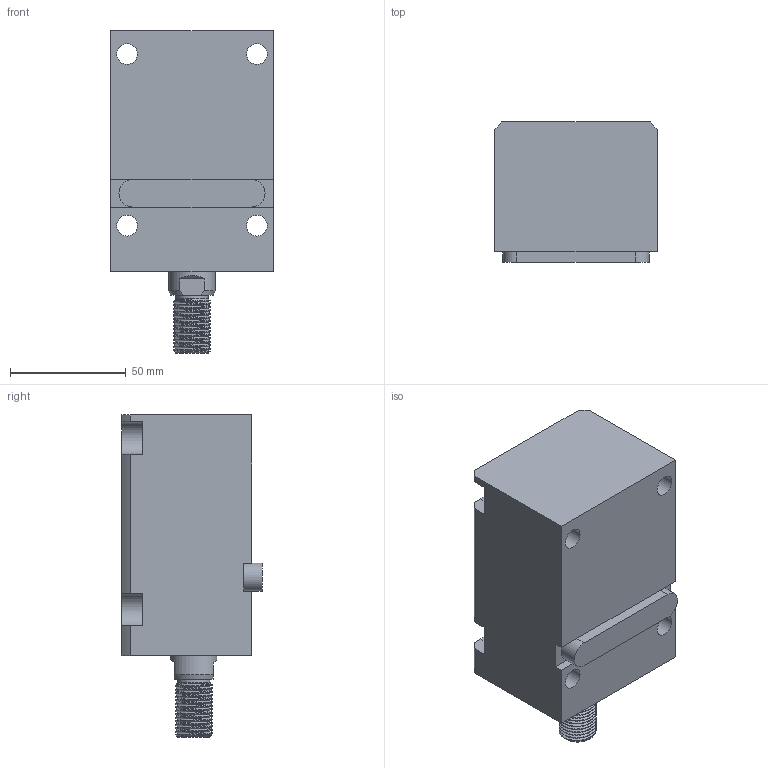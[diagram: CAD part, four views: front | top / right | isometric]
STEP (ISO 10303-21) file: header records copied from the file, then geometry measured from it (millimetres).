
FILE_DESCRIPTION(/* description */ (''),/* implementation_level */ '2;1');
FILE_NAME(/* name */ 'CHTB-LA32-50W.stp',/* time_stamp */ '2022-04-29T16:05:52+08:00',/* author */ (''),/* organization */ (''),/* preprocessor_version */ 'ST-DEVELOPER v16.7',/* originating_system */ 'SIEMENS PLM Software NX 12.0',/* authorisation */ '');
FILE_SCHEMA (('AUTOMOTIVE_DESIGN { 1 0 10303 214 3 1 1 1 }'));
Length unit declared in the file: millimetre
Products named in the file (1): CHTB-LA32-50W
Bounding box: 70 x 60.5 x 139 mm (x, y, z)
Volume: 368539 mm3; surface area: 71164.5 mm2
Topology: 3 solids, 3 shells, 443 faces, 1288 edges, 887 vertices
Faces by surface type: plane 286, extrusion 79, cylinder 40, cone 14, torus 12, bspline 12
Full cylindrical faces by diameter (mm): 3 x2, 4 x2, 9 x4, 10.7 x2, 14 x1, 20 x2, 24 x1, 24.5 x1, 26 x1, 32 x4, 40 x1
Entity records: 23275 total; most frequent: CARTESIAN_POINT 10195, ORIENTED_EDGE 2460, DIRECTION 1788, EDGE_CURVE 1230, VECTOR 890, VERTEX_POINT 876, LINE 811, EDGE_LOOP 534
